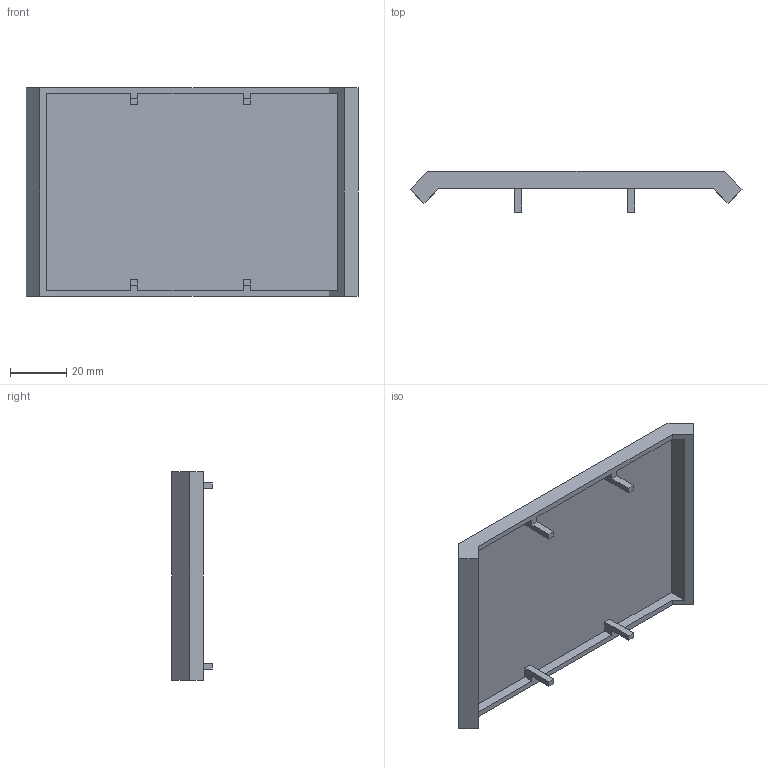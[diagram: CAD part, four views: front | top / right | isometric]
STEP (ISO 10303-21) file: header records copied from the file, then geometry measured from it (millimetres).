
FILE_DESCRIPTION (( 'STEP AP203' ), '1' );
FILE_NAME ('1071cap.STEP', '2016-04-09T13:37:44', ( '' ), ( '' ), 'SwSTEP 2.0', 'SolidWorks 2014', '' );
FILE_SCHEMA (( 'CONFIG_CONTROL_DESIGN' ));
Length unit declared in the file: millimetre
Products named in the file (1): 1071cap
Bounding box: 117.73 x 14.5 x 74 mm (x, y, z)
Volume: 27701.4 mm3; surface area: 21798.1 mm2
Topology: 1 solids, 1 shells, 40 faces, 114 edges, 76 vertices
Faces by surface type: plane 40
Entity records: 1355 total; most frequent: CARTESIAN_POINT 231, ORIENTED_EDGE 228, DIRECTION 196, EDGE_CURVE 114, VECTOR 114, LINE 114, VERTEX_POINT 76, AXIS2_PLACEMENT_3D 41
